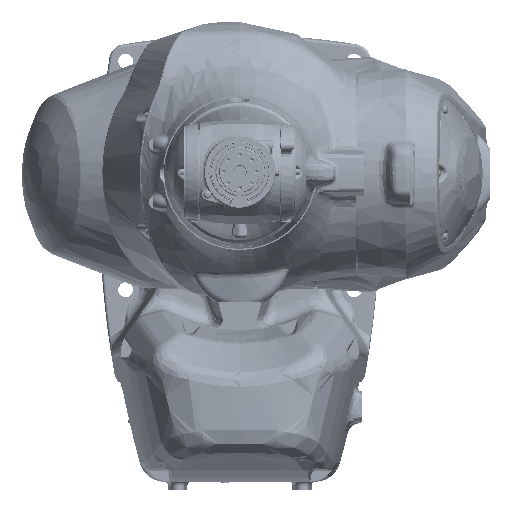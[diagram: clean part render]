
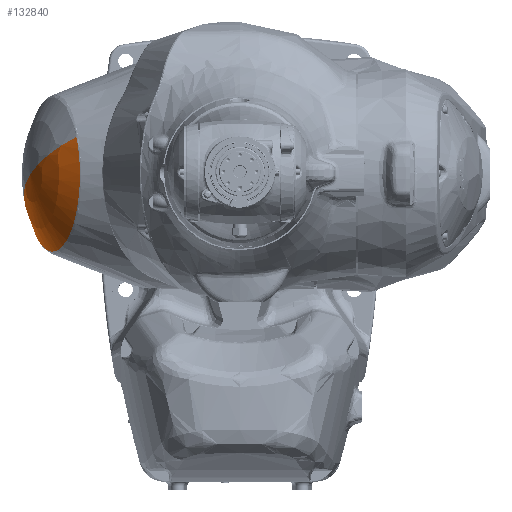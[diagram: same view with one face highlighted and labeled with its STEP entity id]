
A CAD part, top view. The second image highlights one B-rep face of the part: STEP entity #132840.
In plain terms, the highlighted spherical face has radius 167.464 mm.
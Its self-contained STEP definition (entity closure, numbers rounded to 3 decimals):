
#127695=CARTESIAN_POINT('Vertex',(-246.342,-73.357,-67.509)) ;
#127704=CARTESIAN_POINT('Vertex',(-226.704,-92.968,-12.305)) ;
#127708=CARTESIAN_POINT('Control Point',(-246.342,-73.357,-67.509)) ;
#127709=CARTESIAN_POINT('Control Point',(-244.975,-76.544,-63.541)) ;
#127710=CARTESIAN_POINT('Control Point',(-243.532,-79.437,-59.366)) ;
#127711=CARTESIAN_POINT('Control Point',(-242.019,-82.016,-55.013)) ;
#127712=CARTESIAN_POINT('Control Point',(-238.864,-86.536,-45.988)) ;
#127713=CARTESIAN_POINT('Control Point',(-235.492,-89.717,-36.48)) ;
#127714=CARTESIAN_POINT('Control Point',(-233.757,-90.967,-31.625)) ;
#127715=CARTESIAN_POINT('Control Point',(-231.391,-92.17,-25.072)) ;
#127716=CARTESIAN_POINT('Control Point',(-228.976,-92.752,-18.47)) ;
#127717=CARTESIAN_POINT('Control Point',(-228.369,-92.859,-16.817)) ;
#127718=CARTESIAN_POINT('Control Point',(-227.671,-92.936,-14.921)) ;
#127719=CARTESIAN_POINT('Control Point',(-226.971,-92.963,-13.027)) ;
#127720=CARTESIAN_POINT('Control Point',(-226.882,-92.965,-12.786)) ;
#127721=CARTESIAN_POINT('Control Point',(-226.793,-92.967,-12.546)) ;
#127722=CARTESIAN_POINT('Control Point',(-226.704,-92.968,-12.305)) ;
#128313=CARTESIAN_POINT('Vertex',(-219.187,-90.781,7.609)) ;
#128317=CARTESIAN_POINT('Control Point',(-226.703,-92.968,-12.305)) ;
#128318=CARTESIAN_POINT('Control Point',(-225.447,-92.981,-8.912)) ;
#128319=CARTESIAN_POINT('Control Point',(-224.178,-92.84,-5.528)) ;
#128320=CARTESIAN_POINT('Control Point',(-222.904,-92.54,-2.162)) ;
#128321=CARTESIAN_POINT('Control Point',(-221.422,-91.999,1.737)) ;
#128322=CARTESIAN_POINT('Control Point',(-219.954,-91.226,5.593)) ;
#128323=CARTESIAN_POINT('Control Point',(-219.746,-91.111,6.14)) ;
#128324=CARTESIAN_POINT('Control Point',(-219.51,-90.976,6.76)) ;
#128325=CARTESIAN_POINT('Control Point',(-219.275,-90.835,7.378)) ;
#128326=CARTESIAN_POINT('Control Point',(-219.246,-90.817,7.454)) ;
#128327=CARTESIAN_POINT('Control Point',(-219.216,-90.799,7.532)) ;
#128328=CARTESIAN_POINT('Control Point',(-219.187,-90.781,7.609)) ;
#131093=CARTESIAN_POINT('Vertex',(-200.5,-58.188,56.818)) ;
#131097=CARTESIAN_POINT('Control Point',(-219.187,-90.781,7.609)) ;
#131098=CARTESIAN_POINT('Control Point',(-216.131,-88.912,15.646)) ;
#131099=CARTESIAN_POINT('Control Point',(-213.151,-86.02,23.486)) ;
#131100=CARTESIAN_POINT('Control Point',(-210.306,-82.133,30.981)) ;
#131101=CARTESIAN_POINT('Control Point',(-206.585,-75.395,40.783)) ;
#131102=CARTESIAN_POINT('Control Point',(-203.324,-67.042,49.379)) ;
#131103=CARTESIAN_POINT('Control Point',(-202.433,-64.531,51.727)) ;
#131104=CARTESIAN_POINT('Control Point',(-201.525,-61.717,54.119)) ;
#131105=CARTESIAN_POINT('Control Point',(-200.669,-58.776,56.374)) ;
#131106=CARTESIAN_POINT('Control Point',(-200.612,-58.581,56.523)) ;
#131107=CARTESIAN_POINT('Control Point',(-200.556,-58.385,56.671)) ;
#131108=CARTESIAN_POINT('Control Point',(-200.5,-58.188,56.818)) ;
#132243=CARTESIAN_POINT('Vertex',(-193.192,0.,75.988)) ;
#132247=CARTESIAN_POINT('Control Point',(-200.5,-58.188,56.818)) ;
#132248=CARTESIAN_POINT('Control Point',(-200.496,-58.176,56.828)) ;
#132249=CARTESIAN_POINT('Control Point',(-200.493,-58.163,56.837)) ;
#132250=CARTESIAN_POINT('Control Point',(-200.489,-58.15,56.847)) ;
#132251=CARTESIAN_POINT('Control Point',(-200.436,-57.964,56.987)) ;
#132252=CARTESIAN_POINT('Control Point',(-200.383,-57.777,57.126)) ;
#132253=CARTESIAN_POINT('Control Point',(-200.334,-57.603,57.255)) ;
#132254=CARTESIAN_POINT('Control Point',(-198.579,-51.322,61.877)) ;
#132255=CARTESIAN_POINT('Control Point',(-197.057,-44.505,65.875)) ;
#132256=CARTESIAN_POINT('Control Point',(-195.827,-37.456,69.103)) ;
#132257=CARTESIAN_POINT('Control Point',(-194.323,-25.928,73.039)) ;
#132258=CARTESIAN_POINT('Control Point',(-193.511,-13.896,75.157)) ;
#132259=CARTESIAN_POINT('Control Point',(-193.311,-9.509,75.679)) ;
#132260=CARTESIAN_POINT('Control Point',(-193.201,-4.96,75.964)) ;
#132261=CARTESIAN_POINT('Control Point',(-193.192,-0.41,75.988)) ;
#132262=CARTESIAN_POINT('Control Point',(-193.192,-0.273,75.988)) ;
#132263=CARTESIAN_POINT('Control Point',(-193.192,-0.136,75.988)) ;
#132264=CARTESIAN_POINT('Control Point',(-193.192,0.,75.988)) ;
#132473=CARTESIAN_POINT('Vertex',(-197.422,45.356,64.913)) ;
#132540=CARTESIAN_POINT('Control Point',(-193.192,0.,75.988)) ;
#132541=CARTESIAN_POINT('Control Point',(-193.192,8.826,75.988)) ;
#132542=CARTESIAN_POINT('Control Point',(-193.57,17.652,75.005)) ;
#132543=CARTESIAN_POINT('Control Point',(-194.324,26.304,73.039)) ;
#132544=CARTESIAN_POINT('Control Point',(-195.516,35.24,69.919)) ;
#132545=CARTESIAN_POINT('Control Point',(-197.082,43.614,65.806)) ;
#132546=CARTESIAN_POINT('Control Point',(-197.194,44.197,65.513)) ;
#132547=CARTESIAN_POINT('Control Point',(-197.307,44.778,65.216)) ;
#132548=CARTESIAN_POINT('Control Point',(-197.422,45.356,64.913)) ;
#132783=CARTESIAN_POINT('Vertex',(-253.426,-49.821,-88.101)) ;
#132787=CARTESIAN_POINT('Control Point',(-253.426,-49.821,-88.101)) ;
#132788=CARTESIAN_POINT('Control Point',(-252.294,-55.238,-84.8)) ;
#132789=CARTESIAN_POINT('Control Point',(-251.007,-60.345,-81.058)) ;
#132790=CARTESIAN_POINT('Control Point',(-249.579,-65.089,-76.909)) ;
#132791=CARTESIAN_POINT('Control Point',(-248.022,-69.433,-72.386)) ;
#132792=CARTESIAN_POINT('Control Point',(-246.355,-73.327,-67.546)) ;
#132793=CARTESIAN_POINT('Control Point',(-246.35,-73.337,-67.534)) ;
#132794=CARTESIAN_POINT('Control Point',(-246.346,-73.347,-67.521)) ;
#132795=CARTESIAN_POINT('Control Point',(-246.342,-73.357,-67.509)) ;
#132804=CARTESIAN_POINT('Axis2P3D Location',(-95.97,0.,-60.364)) ;
#132809=CARTESIAN_POINT('Axis2P3D Location',(-95.97,0.,-60.364)) ;
#132813=CARTESIAN_POINT('Vertex',(-253.334,0.,-3.088)) ;
#132816=CARTESIAN_POINT('Axis2P3D Location',(-95.97,0.,-60.364)) ;
#132820=CARTESIAN_POINT('Vertex',(-254.333,-45.188,-90.748)) ;
#132824=CARTESIAN_POINT('Control Point',(-254.333,-45.188,-90.748)) ;
#132825=CARTESIAN_POINT('Control Point',(-254.046,-46.759,-89.908)) ;
#132826=CARTESIAN_POINT('Control Point',(-253.743,-48.304,-89.025)) ;
#132827=CARTESIAN_POINT('Control Point',(-253.426,-49.821,-88.101)) ;
#132805=DIRECTION('Axis2P3D Direction',(-0.94,0.,0.342)) ;
#132806=DIRECTION('Axis2P3D XDirection',(0.3,0.479,0.825)) ;
#132810=DIRECTION('Axis2P3D Direction',(0.164,-0.878,0.451)) ;
#132817=DIRECTION('Axis2P3D Direction',(-0.164,0.878,-0.451)) ;
#132807=AXIS2_PLACEMENT_3D('Sphere Axis2P3D',#132804,#132805,#132806) ;
#132811=AXIS2_PLACEMENT_3D('Circle Axis2P3D',#132809,#132810,$) ;
#132818=AXIS2_PLACEMENT_3D('Circle Axis2P3D',#132816,#132817,$) ;
#132830=ORIENTED_EDGE('',*,*,#132815,.F.) ;
#132831=ORIENTED_EDGE('',*,*,#132822,.T.) ;
#132832=ORIENTED_EDGE('',*,*,#132828,.T.) ;
#132833=ORIENTED_EDGE('',*,*,#132796,.T.) ;
#132834=ORIENTED_EDGE('',*,*,#127723,.T.) ;
#132835=ORIENTED_EDGE('',*,*,#128329,.T.) ;
#132836=ORIENTED_EDGE('',*,*,#131109,.T.) ;
#132837=ORIENTED_EDGE('',*,*,#132265,.T.) ;
#132838=ORIENTED_EDGE('',*,*,#132549,.T.) ;
#132840=ADVANCED_FACE('J1',(#132839),#132808,.T.) ;
#127707=B_SPLINE_CURVE_WITH_KNOTS('',5,(#127708,#127709,#127710,#127711,#127712,#127713,#127714,#127715,#127716,#127717,#127718,#127719,#127720,#127721,#127722),.UNSPECIFIED.,.F.,.U.,(6,3,3,3,6),(107.673,175.578,243.755,266.507,269.819),.UNSPECIFIED.) ;
#128316=B_SPLINE_CURVE_WITH_KNOTS('',5,(#128317,#128318,#128319,#128320,#128321,#128322,#128323,#128324,#128325,#128326,#128327,#128328),.UNSPECIFIED.,.F.,.U.,(6,3,3,6),(47.509,93.215,100.795,101.802),.UNSPECIFIED.) ;
#131096=B_SPLINE_CURVE_WITH_KNOTS('',5,(#131097,#131098,#131099,#131100,#131101,#131102,#131103,#131104,#131105,#131106,#131107,#131108),.UNSPECIFIED.,.F.,.U.,(6,3,3,6),(115.519,227.191,271.827,274.991),.UNSPECIFIED.) ;
#132246=B_SPLINE_CURVE_WITH_KNOTS('',5,(#132247,#132248,#132249,#132250,#132251,#132252,#132253,#132254,#132255,#132256,#132257,#132258,#132259,#132260,#132261,#132262,#132263,#132264),.UNSPECIFIED.,.F.,.U.,(6,3,3,3,3,6),(113.163,113.368,116.166,213.803,268.943,270.661),.UNSPECIFIED.) ;
#132539=B_SPLINE_CURVE_WITH_KNOTS('',5,(#132540,#132541,#132542,#132543,#132544,#132545,#132546,#132547,#132548),.UNSPECIFIED.,.F.,.U.,(6,3,6),(88.41,198.683,206.987),.UNSPECIFIED.) ;
#132786=B_SPLINE_CURVE_WITH_KNOTS('',5,(#132787,#132788,#132789,#132790,#132791,#132792,#132793,#132794,#132795),.UNSPECIFIED.,.F.,.U.,(6,3,6),(64.786,147.502,147.717),.UNSPECIFIED.) ;
#132823=B_SPLINE_CURVE_WITH_KNOTS('',3,(#132824,#132825,#132826,#132827),.UNSPECIFIED.,.F.,.U.,(4,4),(151.368,165.26),.UNSPECIFIED.) ;
#132812=CIRCLE('generated circle',#132811,167.464) ;
#132819=CIRCLE('generated circle',#132818,167.464) ;
#127723=EDGE_CURVE('',#127696,#127705,#127707,.T.) ;
#128329=EDGE_CURVE('',#127705,#128314,#128316,.T.) ;
#131109=EDGE_CURVE('',#128314,#131094,#131096,.T.) ;
#132265=EDGE_CURVE('',#131094,#132244,#132246,.T.) ;
#132549=EDGE_CURVE('',#132244,#132474,#132539,.T.) ;
#132796=EDGE_CURVE('',#132784,#127696,#132786,.T.) ;
#132815=EDGE_CURVE('',#132814,#132474,#132812,.F.) ;
#132822=EDGE_CURVE('',#132814,#132821,#132819,.F.) ;
#132828=EDGE_CURVE('',#132821,#132784,#132823,.T.) ;
#132829=EDGE_LOOP('',(#132830,#132831,#132832,#132833,#132834,#132835,#132836,#132837,#132838)) ;
#132839=FACE_OUTER_BOUND('',#132829,.T.) ;
#132808=SPHERICAL_SURFACE('',#132807,167.464) ;
#127696=VERTEX_POINT('',#127695) ;
#127705=VERTEX_POINT('',#127704) ;
#128314=VERTEX_POINT('',#128313) ;
#131094=VERTEX_POINT('',#131093) ;
#132244=VERTEX_POINT('',#132243) ;
#132474=VERTEX_POINT('',#132473) ;
#132784=VERTEX_POINT('',#132783) ;
#132814=VERTEX_POINT('',#132813) ;
#132821=VERTEX_POINT('',#132820) ;
